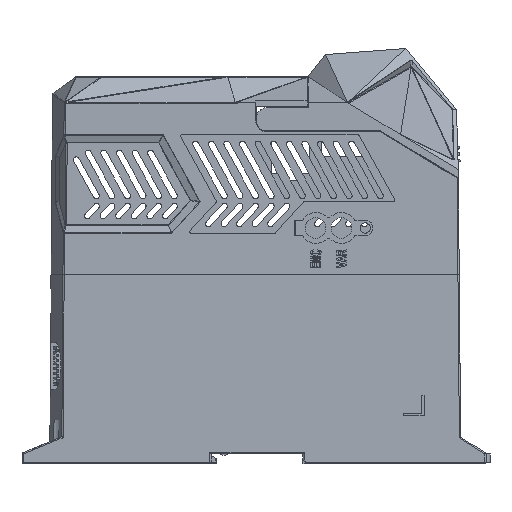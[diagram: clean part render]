
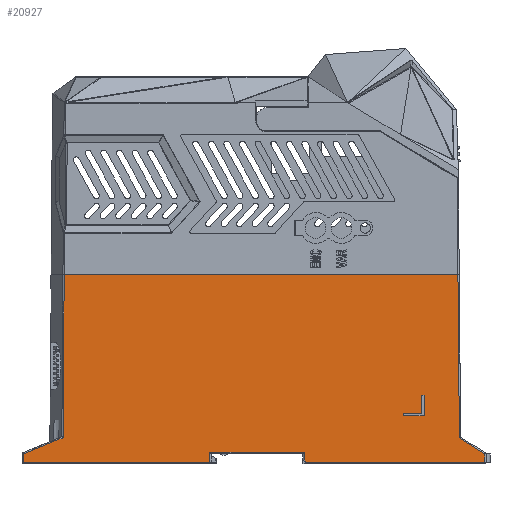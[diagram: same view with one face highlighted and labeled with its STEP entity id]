
A CAD part, left-side view. The second image highlights one B-rep face of the part: STEP entity #20927.
In plain terms, the highlighted planar face has unit normal (-1, 0, 0.009).
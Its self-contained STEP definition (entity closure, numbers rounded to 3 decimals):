
#7352=VECTOR('Line Direction',#7351,1.) ;
#20774=VECTOR('Line Direction',#20773,1.) ;
#20783=VECTOR('Line Direction',#20782,1.) ;
#20790=VECTOR('Line Direction',#20789,1.) ;
#20797=VECTOR('Line Direction',#20796,1.) ;
#20804=VECTOR('Line Direction',#20803,1.) ;
#20809=VECTOR('Line Direction',#20808,1.) ;
#20816=VECTOR('Line Direction',#20815,1.) ;
#20823=VECTOR('Line Direction',#20822,1.) ;
#20830=VECTOR('Line Direction',#20829,1.) ;
#20837=VECTOR('Line Direction',#20836,1.) ;
#20844=VECTOR('Line Direction',#20843,1.) ;
#20851=VECTOR('Line Direction',#20850,1.) ;
#20858=VECTOR('Line Direction',#20857,1.) ;
#20879=VECTOR('Line Direction',#20878,1.) ;
#20888=VECTOR('Line Direction',#20887,1.) ;
#20895=VECTOR('Line Direction',#20894,1.) ;
#20902=VECTOR('Line Direction',#20901,1.) ;
#20909=VECTOR('Line Direction',#20908,1.) ;
#20916=VECTOR('Line Direction',#20915,1.) ;
#7351=DIRECTION('Vector Direction',(0.,-1.,0.)) ;
#20767=DIRECTION('Axis2P3D Direction',(-1.,0.,0.009)) ;
#20768=DIRECTION('Axis2P3D XDirection',(0.,-1.,0.)) ;
#20773=DIRECTION('Vector Direction',(0.,1.,0.)) ;
#20782=DIRECTION('Vector Direction',(0.,-1.,0.)) ;
#20789=DIRECTION('Vector Direction',(-0.009,0.007,-1.)) ;
#20796=DIRECTION('Vector Direction',(0.003,-0.924,0.382)) ;
#20803=DIRECTION('Vector Direction',(-0.009,0.,-1.)) ;
#20808=DIRECTION('Vector Direction',(-0.009,0.,-1.)) ;
#20815=DIRECTION('Vector Direction',(0.,-1.,0.)) ;
#20822=DIRECTION('Vector Direction',(-0.009,0.,-1.)) ;
#20829=DIRECTION('Vector Direction',(-0.006,-0.707,-0.707)) ;
#20836=DIRECTION('Vector Direction',(0.,-1.,0.)) ;
#20843=DIRECTION('Vector Direction',(0.009,0.,1.)) ;
#20850=DIRECTION('Vector Direction',(-0.005,-0.845,-0.534)) ;
#20857=DIRECTION('Vector Direction',(-0.009,-0.009,-1.)) ;
#20878=DIRECTION('Vector Direction',(0.009,0.,1.)) ;
#20887=DIRECTION('Vector Direction',(0.,-1.,0.)) ;
#20894=DIRECTION('Vector Direction',(0.009,0.,1.)) ;
#20901=DIRECTION('Vector Direction',(0.,-1.,0.)) ;
#20908=DIRECTION('Vector Direction',(-0.009,0.,-1.)) ;
#20915=DIRECTION('Vector Direction',(0.,1.,0.)) ;
#7347=CARTESIAN_POINT('Vertex',(-158.413,175.69,-170.813)) ;
#7350=CARTESIAN_POINT('Line Origine',(-158.413,541.217,-170.813)) ;
#7354=CARTESIAN_POINT('Vertex',(-158.413,248.09,-170.813)) ;
#20766=CARTESIAN_POINT('Axis2P3D Location',(-158.418,243.054,-171.318)) ;
#20772=CARTESIAN_POINT('Line Origine',(-157.779,152.899,-98.118)) ;
#20776=CARTESIAN_POINT('Vertex',(-157.779,226.316,-98.118)) ;
#20778=CARTESIAN_POINT('Vertex',(-157.779,79.481,-98.118)) ;
#20781=CARTESIAN_POINT('Line Origine',(-157.779,229.271,-98.118)) ;
#20785=CARTESIAN_POINT('Vertex',(-157.779,232.225,-98.118)) ;
#20788=CARTESIAN_POINT('Line Origine',(-158.054,232.444,-129.691)) ;
#20792=CARTESIAN_POINT('Vertex',(-158.33,232.663,-161.264)) ;
#20795=CARTESIAN_POINT('Line Origine',(-158.358,240.377,-164.456)) ;
#20799=CARTESIAN_POINT('Vertex',(-158.386,248.09,-167.647)) ;
#20802=CARTESIAN_POINT('Line Origine',(-158.4,248.09,-169.23)) ;
#20807=CARTESIAN_POINT('Line Origine',(-158.396,175.69,-168.863)) ;
#20811=CARTESIAN_POINT('Vertex',(-158.379,175.69,-166.913)) ;
#20814=CARTESIAN_POINT('Line Origine',(-158.379,157.39,-166.913)) ;
#20818=CARTESIAN_POINT('Vertex',(-158.379,139.09,-166.913)) ;
#20821=CARTESIAN_POINT('Line Origine',(-158.392,139.09,-168.41)) ;
#20825=CARTESIAN_POINT('Vertex',(-158.405,139.09,-169.906)) ;
#20828=CARTESIAN_POINT('Line Origine',(-158.409,138.637,-170.36)) ;
#20832=CARTESIAN_POINT('Vertex',(-158.413,138.183,-170.813)) ;
#20835=CARTESIAN_POINT('Line Origine',(-158.413,103.637,-170.813)) ;
#20839=CARTESIAN_POINT('Vertex',(-158.413,69.09,-170.813)) ;
#20842=CARTESIAN_POINT('Line Origine',(-158.399,69.09,-169.201)) ;
#20846=CARTESIAN_POINT('Vertex',(-158.385,69.09,-167.589)) ;
#20849=CARTESIAN_POINT('Line Origine',(-158.358,74.01,-164.482)) ;
#20853=CARTESIAN_POINT('Vertex',(-158.331,78.929,-161.375)) ;
#20856=CARTESIAN_POINT('Line Origine',(-158.055,79.205,-129.746)) ;
#20877=CARTESIAN_POINT('Line Origine',(-158.252,100.59,-152.362)) ;
#20881=CARTESIAN_POINT('Vertex',(-158.257,100.59,-152.862)) ;
#20883=CARTESIAN_POINT('Vertex',(-158.248,100.59,-151.862)) ;
#20886=CARTESIAN_POINT('Line Origine',(-158.248,97.09,-151.862)) ;
#20890=CARTESIAN_POINT('Vertex',(-158.248,93.59,-151.862)) ;
#20893=CARTESIAN_POINT('Line Origine',(-158.217,93.59,-148.362)) ;
#20897=CARTESIAN_POINT('Vertex',(-158.187,93.59,-144.862)) ;
#20900=CARTESIAN_POINT('Line Origine',(-158.187,93.09,-144.862)) ;
#20904=CARTESIAN_POINT('Vertex',(-158.187,92.59,-144.862)) ;
#20907=CARTESIAN_POINT('Line Origine',(-158.222,92.59,-148.862)) ;
#20911=CARTESIAN_POINT('Vertex',(-158.257,92.59,-152.862)) ;
#20914=CARTESIAN_POINT('Line Origine',(-158.257,96.59,-152.862)) ;
#20769=AXIS2_PLACEMENT_3D('Plane Axis2P3D',#20766,#20767,#20768) ;
#20926=FACE_BOUND('',#20919,.T.) ;
#7356=EDGE_CURVE('',#7355,#7348,#7353,.T.) ;
#20780=EDGE_CURVE('',#20777,#20779,#20775,.F.) ;
#20787=EDGE_CURVE('',#20786,#20777,#20784,.T.) ;
#20794=EDGE_CURVE('',#20786,#20793,#20791,.T.) ;
#20801=EDGE_CURVE('',#20800,#20793,#20798,.T.) ;
#20806=EDGE_CURVE('',#20800,#7355,#20805,.T.) ;
#20813=EDGE_CURVE('',#20812,#7348,#20810,.T.) ;
#20820=EDGE_CURVE('',#20812,#20819,#20817,.T.) ;
#20827=EDGE_CURVE('',#20819,#20826,#20824,.T.) ;
#20834=EDGE_CURVE('',#20826,#20833,#20831,.T.) ;
#20841=EDGE_CURVE('',#20833,#20840,#20838,.T.) ;
#20848=EDGE_CURVE('',#20840,#20847,#20845,.T.) ;
#20855=EDGE_CURVE('',#20854,#20847,#20852,.T.) ;
#20860=EDGE_CURVE('',#20854,#20779,#20859,.F.) ;
#20885=EDGE_CURVE('',#20882,#20884,#20880,.T.) ;
#20892=EDGE_CURVE('',#20884,#20891,#20889,.T.) ;
#20899=EDGE_CURVE('',#20891,#20898,#20896,.T.) ;
#20906=EDGE_CURVE('',#20898,#20905,#20903,.T.) ;
#20913=EDGE_CURVE('',#20905,#20912,#20910,.T.) ;
#20918=EDGE_CURVE('',#20912,#20882,#20917,.T.) ;
#20770=PLANE('',#20769) ;
#20862=ORIENTED_EDGE('',*,*,#20780,.F.) ;
#20863=ORIENTED_EDGE('',*,*,#20787,.F.) ;
#20864=ORIENTED_EDGE('',*,*,#20794,.T.) ;
#20865=ORIENTED_EDGE('',*,*,#20801,.F.) ;
#20866=ORIENTED_EDGE('',*,*,#20806,.T.) ;
#20867=ORIENTED_EDGE('',*,*,#7356,.T.) ;
#20868=ORIENTED_EDGE('',*,*,#20813,.F.) ;
#20869=ORIENTED_EDGE('',*,*,#20820,.T.) ;
#20870=ORIENTED_EDGE('',*,*,#20827,.T.) ;
#20871=ORIENTED_EDGE('',*,*,#20834,.T.) ;
#20872=ORIENTED_EDGE('',*,*,#20841,.T.) ;
#20873=ORIENTED_EDGE('',*,*,#20848,.T.) ;
#20874=ORIENTED_EDGE('',*,*,#20855,.F.) ;
#20875=ORIENTED_EDGE('',*,*,#20860,.T.) ;
#20920=ORIENTED_EDGE('',*,*,#20885,.T.) ;
#20921=ORIENTED_EDGE('',*,*,#20892,.T.) ;
#20922=ORIENTED_EDGE('',*,*,#20899,.T.) ;
#20923=ORIENTED_EDGE('',*,*,#20906,.T.) ;
#20924=ORIENTED_EDGE('',*,*,#20913,.T.) ;
#20925=ORIENTED_EDGE('',*,*,#20918,.T.) ;
#7353=LINE('Line',#7350,#7352) ;
#20775=LINE('Line',#20772,#20774) ;
#20784=LINE('Line',#20781,#20783) ;
#20791=LINE('Line',#20788,#20790) ;
#20798=LINE('Line',#20795,#20797) ;
#20805=LINE('Line',#20802,#20804) ;
#20810=LINE('Line',#20807,#20809) ;
#20817=LINE('Line',#20814,#20816) ;
#20824=LINE('Line',#20821,#20823) ;
#20831=LINE('Line',#20828,#20830) ;
#20838=LINE('Line',#20835,#20837) ;
#20845=LINE('Line',#20842,#20844) ;
#20852=LINE('Line',#20849,#20851) ;
#20859=LINE('Line',#20856,#20858) ;
#20880=LINE('Line',#20877,#20879) ;
#20889=LINE('Line',#20886,#20888) ;
#20896=LINE('Line',#20893,#20895) ;
#20903=LINE('Line',#20900,#20902) ;
#20910=LINE('Line',#20907,#20909) ;
#20917=LINE('Line',#20914,#20916) ;
#20927=ADVANCED_FACE('Brep With Voids.1',(#20876,#20926),#20770,.T.) ;
#7348=VERTEX_POINT('',#7347) ;
#7355=VERTEX_POINT('',#7354) ;
#20777=VERTEX_POINT('',#20776) ;
#20779=VERTEX_POINT('',#20778) ;
#20786=VERTEX_POINT('',#20785) ;
#20793=VERTEX_POINT('',#20792) ;
#20800=VERTEX_POINT('',#20799) ;
#20812=VERTEX_POINT('',#20811) ;
#20819=VERTEX_POINT('',#20818) ;
#20826=VERTEX_POINT('',#20825) ;
#20833=VERTEX_POINT('',#20832) ;
#20840=VERTEX_POINT('',#20839) ;
#20847=VERTEX_POINT('',#20846) ;
#20854=VERTEX_POINT('',#20853) ;
#20882=VERTEX_POINT('',#20881) ;
#20884=VERTEX_POINT('',#20883) ;
#20891=VERTEX_POINT('',#20890) ;
#20898=VERTEX_POINT('',#20897) ;
#20905=VERTEX_POINT('',#20904) ;
#20912=VERTEX_POINT('',#20911) ;
#20861=EDGE_LOOP('',(#20862,#20863,#20864,#20865,#20866,#20867,#20868,#20869,#20870,#20871,#20872,#20873,#20874,#20875)) ;
#20919=EDGE_LOOP('',(#20920,#20921,#20922,#20923,#20924,#20925)) ;
#20876=FACE_OUTER_BOUND('',#20861,.T.) ;
